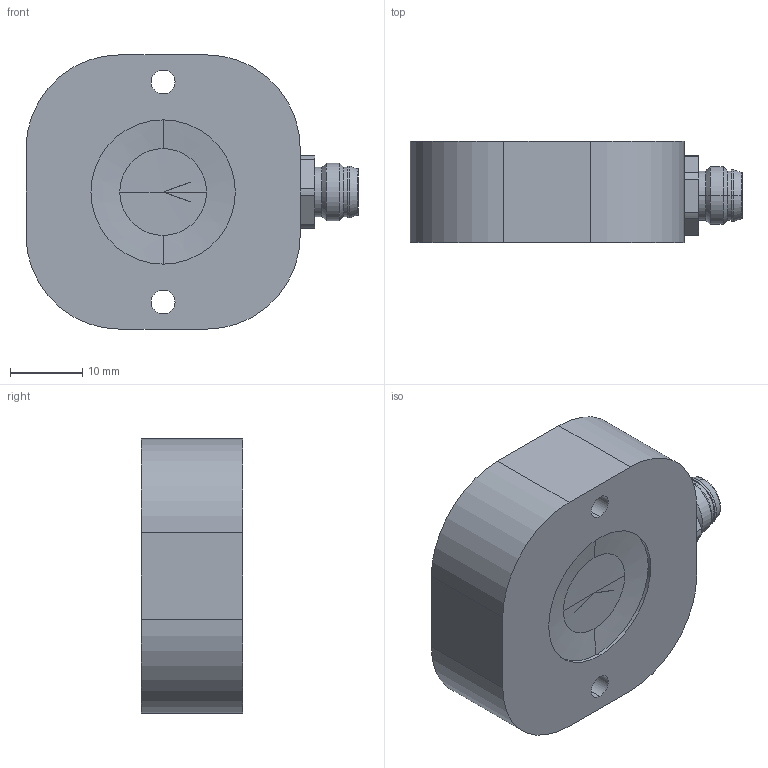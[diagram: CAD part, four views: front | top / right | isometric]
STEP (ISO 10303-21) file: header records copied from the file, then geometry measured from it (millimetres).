
FILE_DESCRIPTION (( 'STEP AP203' ), '1' );
FILE_NAME ('107403_04 (1.2C).STEP', '2015-12-30T12:33:12', ( '' ), ( '' ), 'SwSTEP 2.0', 'SolidWorks 2016', '' );
FILE_SCHEMA (( 'CONFIG_CONTROL_DESIGN' ));
Length unit declared in the file: millimetre
Products named in the file (12): Board; SOLID_1; C12085_Heidi-W2-XPmechanicalmodel; C12085_Heidi-W2-XPmechanicalmodel_1; ASSEMBLY; OPT1; LED_optic_-_XP-E2; Assem88_Outlines; 107403_04 (1.2C); 107403-04-housing_Extra kamer; Inbus schroef M3; 42K1A152_Wires cut
Assembly tree (14 placements, depth 5):
  107403_04 (1.2C)
    107403-04-housing_Extra kamer
    Assem88_Outlines
      OPT1
        LED_optic_-_XP-E2
          C12085_Heidi-W2-XPmechanicalmodel_1
          C12085_Heidi-W2-XPmechanicalmodel
      Board
        ASSEMBLY
          SOLID_1
    42K1A152_Wires cut
    Inbus schroef M3  x4
Bounding box: 46 x 14 x 38 mm (x, y, z)
Volume: 12262.5 mm3; surface area: 10887.8 mm2
Topology: 12 solids, 12 shells, 526 faces, 1294 edges, 783 vertices
Faces by surface type: cylinder 177, plane 166, bspline 93, cone 90
Entity records: 18923 total; most frequent: CARTESIAN_POINT 7381, ORIENTED_EDGE 2200, DIRECTION 2032, EDGE_CURVE 1100, AXIS2_PLACEMENT_3D 779, VERTEX_POINT 690, EDGE_LOOP 490, LINE 474
